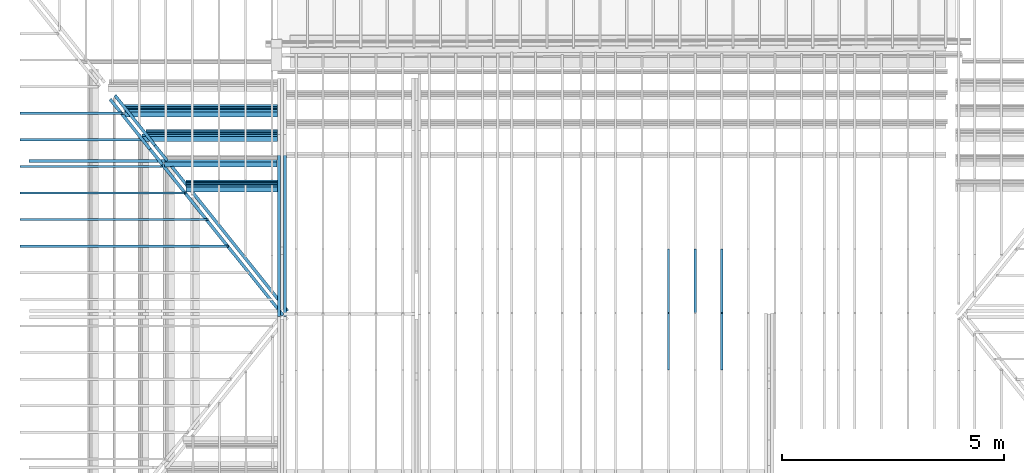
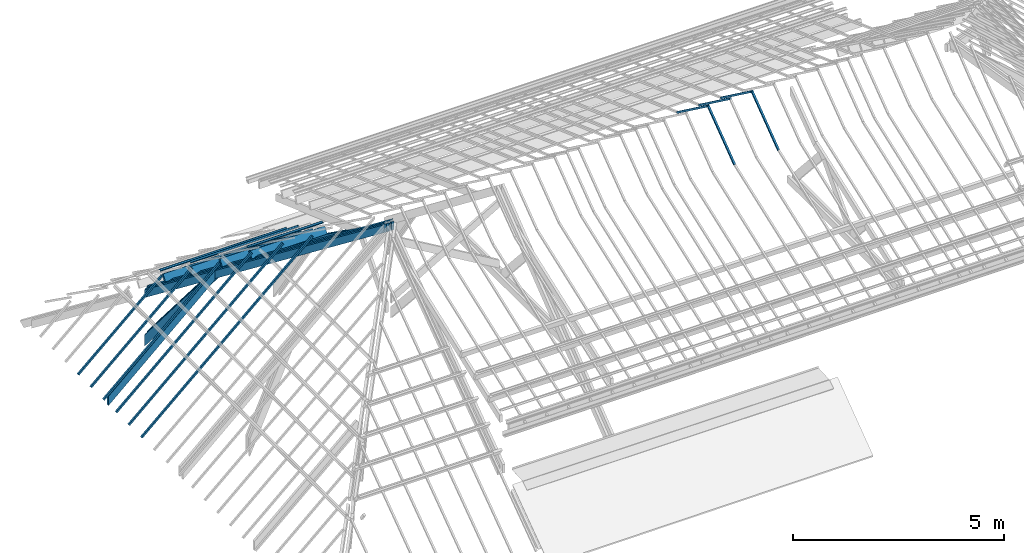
# One storey, part 6 of 18: 25 beams.
"""IFC2X3 building model written with IfcOpenShell, lengths in centimetres."""

from ifc_helpers import new_model, entity, si_unit, converted_unit, direction, frame, frame_2d, origin, origin_2d_with_axis, place, context, subcontext, project, spatial, polyline, circle_curve, parameter, trimmed, segment, composite_curve, rectangle, outline, extrude, clip, halfspace, material, type_object, element, save


model = new_model("IFC2X3")

# Units and contexts
model_context = context("Model", 3, precision=0.001, world=frame((0.0, 0.0, 13090.0)), true_north=direction((6.123233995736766e-17, 1.0)))
body_context = subcontext(model_context, "Body", "Model", "MODEL_VIEW")
ifc_project = project(units=[si_unit("LENGTHUNIT", "METRE", prefix="CENTI"), si_unit("AREAUNIT", "SQUARE_METRE"), si_unit("VOLUMEUNIT", "CUBIC_METRE"), converted_unit("PLANEANGLEUNIT", "DEGREE", entity("IfcPlaneAngleMeasure", 0.017453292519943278), si_unit("PLANEANGLEUNIT", "RADIAN"), dimensions=[0, 0, 0, 0, 0, 0, 0])], contexts=[model_context])

# Site, building, storey
site_placement = place(None, origin())
site = spatial("IfcSite", under=ifc_project, at=site_placement, Name="Default", CompositionType="ELEMENT")
building_placement = place(site_placement, origin())
building = spatial("IfcBuilding", under=site, at=building_placement, Name="e 39 logements et 22 maisons relais", CompositionType="ELEMENT")
storey_placement = place(building_placement, frame((0.0, 0.0, 610.0)))
storey = spatial("IfcBuildingStorey", under=building, at=storey_placement, Name="R+2", CompositionType="ELEMENT", Elevation=609.9999999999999)

# Beams
ifc_material_1 = material(Name="Bois - Bois de construction de dimensions courantes")
beam_type_1 = type_object("IfcBeamType", Name="Poutre - Bois de construction de dimensions courantes:70 200", PredefinedType="BEAM")
beam_1_placement = place(storey_placement, frame((-905.5294746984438, 463.2836581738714, -27.8660303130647), z_axis=(0.0, 0.581100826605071, 0.8138315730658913), x_axis=(0.0, -0.8138315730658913, 0.581100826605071)))
element("IfcBeam", 1, at=beam_1_placement, inside=storey, type_object=beam_type_1, material=ifc_material_1, Name="Poutre - Bois de construction de dimensions courantes:70 200", ObjectType="Poutre - Bois de construction de dimensions courantes:70 200", context=body_context, shape_type="Clipping", body=[
    clip(clip(extrude(rectangle(XDim=20.000000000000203, YDim=7.000000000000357, at=frame_2d((-5.3290705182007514e-14, 5.417888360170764e-14), x_axis=(1.0, 0.0))), frame((-114.89979409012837, 0.0, -72.0), z_axis=(1.0, 0.0, 0.0), x_axis=(0.0, 0.0, -1.0)), (0.0, 0.0, 1.0), 674.112694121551), halfspace(frame((585.5654339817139, -707.1819152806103, -29.048633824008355), z_axis=(0.7809677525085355, 0.0, -0.6245713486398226), x_axis=(0.0, 1.0, 0.0)), False)), halfspace(frame((-156.5033234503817, -707.1819152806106, -140.26573323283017), z_axis=(-0.8138315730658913, 0.0, 0.581100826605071), x_axis=(0.0, 1.0, 0.0)), False)),
])
beam_2_placement = place(storey_placement, frame((-570.9302602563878, 436.5245154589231, -59.66327943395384), z_axis=(0.0, 0.0, 1.0), x_axis=(-1.0, 0.0, 0.0)))
element("IfcBeam", 2, at=beam_2_placement, inside=storey, type_object=beam_type_1, material=ifc_material_1, Name="Poutre - Bois de construction de dimensions courantes:70 200", ObjectType="Poutre - Bois de construction de dimensions courantes:70 200", context=body_context, shape_type="SweptSolid", body=[
    extrude(rectangle(XDim=19.999999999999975, YDim=7.00000000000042, at=frame_2d((2.842170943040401e-14, -5.284661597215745e-14), x_axis=(1.0, 0.0))), frame((352.0992144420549, 5.735764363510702, -8.191520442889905), z_axis=(1.0, 0.0, 0.0), x_axis=(0.0, -0.5735764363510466, 0.8191520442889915)), (0.0, 0.0, 1.0), 344.47510569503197),
])
beam_3_placement = place(storey_placement, frame((-570.930260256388, 380.5076342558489, -19.73212954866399), z_axis=(0.0, 0.0, 1.0), x_axis=(-1.0, 0.0, 0.0)))
element("IfcBeam", 3, at=beam_3_placement, inside=storey, type_object=beam_type_1, material=ifc_material_1, Name="Poutre - Bois de construction de dimensions courantes:70 200", ObjectType="Poutre - Bois de construction de dimensions courantes:70 200", context=body_context, shape_type="SweptSolid", body=[
    extrude(rectangle(XDim=19.999999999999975, YDim=7.000000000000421, at=frame_2d((2.930988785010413e-14, -5.306866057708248e-14), x_axis=(1.0, 0.0))), frame((352.09921444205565, 5.735764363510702, -8.191520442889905), z_axis=(1.0, 0.0, 0.0), x_axis=(0.0, -0.5735764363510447, 0.8191520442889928)), (0.0, 0.0, 1.0), 305.08253445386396),
])
beam_4_placement = place(storey_placement, frame((-571.5398602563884, 323.50256693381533, 20.903440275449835), z_axis=(0.0, 0.0, 1.0), x_axis=(-1.0, 0.0, 0.0)))
element("IfcBeam", 4, at=beam_4_placement, inside=storey, type_object=beam_type_1, material=ifc_material_1, Name="Poutre - Bois de construction de dimensions courantes:70 200", ObjectType="Poutre - Bois de construction de dimensions courantes:70 200", context=body_context, shape_type="SweptSolid", body=[
    extrude(rectangle(XDim=19.99999999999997, YDim=7.000000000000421, at=frame_2d((6.039613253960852e-14, -8.659739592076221e-15), x_axis=(1.0, 0.0))), frame((352.0992144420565, 5.735764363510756, -8.191520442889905), z_axis=(1.0, 0.0, 0.0), x_axis=(0.0, -0.5735764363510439, 0.8191520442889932)), (0.0, 0.0, 1.0), 253.62741609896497),
])
beam_5_placement = place(storey_placement, frame((-570.9302602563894, 266.83133698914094, 61.30103700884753), z_axis=(0.0, 0.0, 1.0), x_axis=(-1.0, 0.0, 0.0)))
element("IfcBeam", 5, at=beam_5_placement, inside=storey, type_object=beam_type_1, material=ifc_material_1, Name="Poutre - Bois de construction de dimensions courantes:70 200", ObjectType="Poutre - Bois de construction de dimensions courantes:70 200", context=body_context, shape_type="SweptSolid", body=[
    extrude(rectangle(XDim=19.999999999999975, YDim=7.000000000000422, at=frame_2d((2.842170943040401e-14, -5.3512749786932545e-14), x_axis=(1.0, 0.0))), frame((352.09921444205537, 5.735764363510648, -8.191520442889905), z_axis=(1.0, 0.0, 0.0), x_axis=(0.0, -0.5735764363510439, 0.8191520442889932)), (0.0, 0.0, 1.0), 205.9371866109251),
])
beam_6_placement = place(storey_placement, frame((-919.5294746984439, 462.7115268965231, -25.0), z_axis=(0.0, 0.5811008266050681, 0.8138315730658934), x_axis=(0.0, -0.8138315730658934, 0.5811008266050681)))
element("IfcBeam", 6, at=beam_6_placement, inside=storey, type_object=beam_type_1, material=ifc_material_1, Name="Poutre - Bois de construction de dimensions courantes:70 200", ObjectType="Poutre - Bois de construction de dimensions courantes:70 200", context=body_context, shape_type="Clipping", body=[
    clip(clip(extrude(rectangle(XDim=19.999999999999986, YDim=7.000000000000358, at=frame_2d((4.440892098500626e-14, 5.395683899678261e-14), x_axis=(1.0, 0.0))), frame((-117.03086517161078, 0.0, -74.0), z_axis=(1.0, 0.0, 0.0), x_axis=(0.0, 0.0, -1.0)), (0.0, 0.0, 1.0), 675.2389835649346), halfspace(frame((584.5606523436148, -706.1819152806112, -31.048633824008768), z_axis=(0.7809677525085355, 0.0, -0.6245713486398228), x_axis=(0.0, 1.0, 0.0)), False)), halfspace(frame((-157.93326976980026, -706.1819152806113, -141.28380816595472), z_axis=(-0.8138315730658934, 0.0, 0.5811008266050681), x_axis=(0.0, 1.0, 0.0)), False)),
])
beam_7_placement = place(storey_placement, frame((-1229.27291643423, 395.47469559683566, 41.26438352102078), z_axis=(-0.30661229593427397, 0.3831192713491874, 0.8713257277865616), x_axis=(0.5444394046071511, -0.6802898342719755, 0.49070508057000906)))
element("IfcBeam", 7, at=beam_7_placement, inside=storey, type_object=beam_type_1, material=ifc_material_1, Name="Poutre - Bois de construction de dimensions courantes:70 200", ObjectType="Poutre - Bois de construction de dimensions courantes:70 200", context=body_context, shape_type="Clipping", body=[
    clip(clip(extrude(rectangle(XDim=20.0000000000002, YDim=7.000000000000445, at=frame_2d((2.1316282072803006e-14, -1.354472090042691e-13), x_axis=(1.0, 0.0))), frame((-168.0327282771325, 0.0, -92.0), z_axis=(1.0, 0.0, 0.0), x_axis=(0.0, 0.0, -1.0)), (0.0, 0.0, 1.0), 726.4458880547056), halfspace(frame((585.5654339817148, -748.6307979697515, -48.048633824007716), z_axis=(0.7809677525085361, 0.0, -0.6245713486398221), x_axis=(0.0, 1.0, 0.0)), False)), halfspace(frame((-126.49491129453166, 748.6307979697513, -27.48955892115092), z_axis=(-0.8734440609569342, 0.0, 0.4869245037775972), x_axis=(0.0, -1.0, 0.0)), False)),
])
beam_8_placement = place(storey_placement, frame((-1281.9583393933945, 461.3063700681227, -86.81401463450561), z_axis=(0.9252385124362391, 0.19438072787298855, -0.32580642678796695), x_axis=(0.3793859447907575, -0.4740516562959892, 0.7945699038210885)))
element("IfcBeam", 8, at=beam_8_placement, inside=storey, type_object=beam_type_1, material=ifc_material_1, Name="Poutre - Bois de construction de dimensions courantes:70 200", ObjectType="Poutre - Bois de construction de dimensions courantes:70 200", context=body_context, shape_type="Clipping", body=[
    clip(clip(extrude(rectangle(XDim=20.000000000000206, YDim=7.000000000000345, at=frame_2d((0.0, 0.0), x_axis=(0.0, 1.0))), frame((-150.8415061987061, 77.63321452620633, 49.36683099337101), z_axis=(1.0, 0.0, 0.0), x_axis=(0.0, -0.5365959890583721, 0.8438392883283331)), (0.0, 0.0, 1.0), 307.9335501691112), halfspace(frame((-79.39791125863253, -230.41775749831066, 447.3915401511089), z_axis=(-0.6071726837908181, -0.6704893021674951, -0.426363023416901), x_axis=(0.0, 0.5365959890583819, -0.8438392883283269)), False)), halfspace(frame((68.89715524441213, 323.05617424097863, -388.4829262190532), z_axis=(0.39438647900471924, -0.7754416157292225, -0.4931020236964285), x_axis=(0.0, -0.536595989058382, 0.8438392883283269)), False)),
])
beam_9_placement = place(storey_placement, frame((-1239.7620324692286, 386.1753665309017, 41.66223729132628), z_axis=(-0.30661229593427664, 0.383119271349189, 0.8713257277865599), x_axis=(0.5444394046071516, -0.680289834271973, 0.49070508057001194)))
element("IfcBeam", 9, at=beam_9_placement, inside=storey, type_object=beam_type_1, material=ifc_material_1, Name="Poutre - Bois de construction de dimensions courantes:70 200", ObjectType="Poutre - Bois de construction de dimensions courantes:70 200", context=body_context, shape_type="Clipping", body=[
    clip(clip(extrude(rectangle(XDim=20.000000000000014, YDim=7.000000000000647, at=frame_2d((1.1457501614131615e-13, -3.397282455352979e-14), x_axis=(1.0, 0.0))), frame((-168.84350808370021, 0.0, -92.0), z_axis=(1.0, 0.0, 0.0), x_axis=(0.0, 0.0, -1.0)), (0.0, 0.0, 1.0), 728.1325496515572), halfspace(frame((586.4413157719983, -749.5307979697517, -48.04863382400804), z_axis=(0.7809677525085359, 0.0, -0.6245713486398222), x_axis=(0.0, 1.0, 0.0)), False)), halfspace(frame((-127.11917719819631, 749.530797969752, -27.1549907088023), z_axis=(-0.8734440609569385, 0.0, 0.48692450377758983), x_axis=(0.0, -1.0, 0.0)), False)),
])
beam_10_placement = place(storey_placement, frame((-1295.5124585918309, 455.8368345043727, -92.30873544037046), z_axis=(0.9252385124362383, 0.19438072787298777, -0.3258064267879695), x_axis=(0.37938594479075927, -0.47405165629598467, 0.7945699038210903)))
element("IfcBeam", 10, at=beam_10_placement, inside=storey, type_object=beam_type_1, material=ifc_material_1, Name="Poutre - Bois de construction de dimensions courantes:70 200", ObjectType="Poutre - Bois de construction de dimensions courantes:70 200", context=body_context, shape_type="Clipping", body=[
    clip(clip(extrude(rectangle(XDim=20.000000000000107, YDim=6.999999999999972, at=frame_2d((5.0182080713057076e-14, 8.526512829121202e-14), x_axis=(0.0, 1.0))), frame((-146.96962917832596, 77.6332145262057, 49.366830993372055), z_axis=(1.0, 0.0, 0.0), x_axis=(0.0, -0.53659598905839, 0.8438392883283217)), (0.0, 0.0, 1.0), 310.97701285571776), halfspace(frame((-76.83597434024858, -228.0767502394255, 448.88018274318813), z_axis=(-0.6071726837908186, -0.6704893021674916, -0.4263630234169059), x_axis=(0.0, 0.5365959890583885, -0.8438392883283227)), False)), halfspace(frame((73.5846626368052, 322.2493575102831, -388.99597962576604), z_axis=(0.3943864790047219, -0.7754416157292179, -0.49310202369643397), x_axis=(0.0, -0.5365959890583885, 0.8438392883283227)), False)),
])
beam_11_placement = place(storey_placement, frame((-1378.9840533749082, 323.0076677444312, -63.82767713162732), z_axis=(-0.6686368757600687, 0.0, 0.7435890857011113), x_axis=(0.7435890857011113, 0.0, 0.6686368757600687)))
element("IfcBeam", 11, at=beam_11_placement, inside=storey, type_object=beam_type_1, material=ifc_material_1, Name="Poutre - Bois de construction de dimensions courantes:70 200", ObjectType="Poutre - Bois de construction de dimensions courantes:70 200", context=body_context, shape_type="Clipping", body=[
    clip(extrude(rectangle(XDim=20.000000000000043, YDim=7.000000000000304, at=frame_2d((0.0, 2.708944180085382e-14), x_axis=(1.0, 0.0))), frame((-231.65183513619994, 0.0, -92.0), z_axis=(1.0, 0.0, 0.0), x_axis=(0.0, 0.0, -1.0)), (0.0, 0.0, 1.0), 412.3008254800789), halfspace(frame((-186.06070489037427, 585.5520112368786, -51.29823932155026), z_axis=(-0.7435890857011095, 0.0, 0.6686368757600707), x_axis=(0.0, -1.0, 0.0)), False)),
])
ifc_material_2 = material(Name="neuf")
beam_type_2 = type_object("IfcBeamType", Name="panne z:panne z", PredefinedType="BEAM")
beam_12_placement = place(storey_placement, frame((-570.9302602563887, 445.96512300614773, -50.81808618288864), z_axis=(0.0, 0.0, 1.0), x_axis=(-1.0, 0.0, 0.0)))
element("IfcBeam", 12, at=beam_12_placement, inside=storey, type_object=beam_type_2, material=ifc_material_2, Name="panne z:panne z", ObjectType="panne z:panne z", context=body_context, shape_type="SweptSolid", body=[
    extrude(outline(composite_curve([segment(trimmed(circle_curve(frame_2d((-0.3000000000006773, 2.5999999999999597), x_axis=(1.0, 0.0)), 0.3999999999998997), [parameter(0.0)], [parameter(90.00000000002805)], True, "PARAMETER"), True, "CONTINUOUS"), segment(polyline([(-0.30000000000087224, 3.0), (-4.600000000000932, 3.0)]), True, "CONTINUOUS"), segment(trimmed(circle_curve(frame_2d((-4.60000000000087, 2.599999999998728), x_axis=(0.0, 1.0)), 0.39999999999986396), [parameter(0.0)], [parameter(90.00000000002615)], True, "PARAMETER"), True, "CONTINUOUS"), segment(polyline([(-5.0, 2.5999999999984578), (-5.0, 1.0)]), True, "CONTINUOUS"), segment(polyline([(-5.0, 1.0), (-4.800000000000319, 1.0)]), True, "CONTINUOUS"), segment(polyline([(-4.800000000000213, 1.0), (-4.800000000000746, 2.599999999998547)]), True, "CONTINUOUS"), segment(trimmed(circle_curve(frame_2d((-4.600000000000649, 2.5999999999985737), x_axis=(-1.0, 0.0)), 0.20000000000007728), [parameter(270.00000000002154)], [parameter(0.0)], True, "PARAMETER"), False, "CONTINUOUS"), segment(polyline([(-4.600000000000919, 2.7999999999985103), (-0.3000000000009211, 2.799999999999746)]), True, "CONTINUOUS"), segment(trimmed(circle_curve(frame_2d((-0.30000000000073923, 2.599999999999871), x_axis=(0.0, 1.0)), 0.2000000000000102), [parameter(270.00000000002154)], [parameter(0.0)], True, "PARAMETER"), False, "CONTINUOUS"), segment(polyline([(-0.10000000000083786, 2.599999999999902), (-0.09999999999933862, -2.6000000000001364)]), True, "CONTINUOUS"), segment(trimmed(circle_curve(frame_2d((0.3000000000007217, -2.59999999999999), x_axis=(-1.0, 0.0)), 0.3999999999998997), [parameter(0.0)], [parameter(90.00000000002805)], True, "PARAMETER"), True, "CONTINUOUS"), segment(polyline([(0.30000000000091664, -3.0), (4.600000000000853, -3.0)]), True, "CONTINUOUS"), segment(trimmed(circle_curve(frame_2d((4.600000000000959, -2.5999999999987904), x_axis=(0.0, -1.0)), 0.39999999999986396), [parameter(0.0)], [parameter(90.00000000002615)], True, "PARAMETER"), True, "CONTINUOUS"), segment(polyline([(5.0, -2.5999999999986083), (5.0, -1.0)]), True, "CONTINUOUS"), segment(polyline([(5.0, -1.0), (4.8000000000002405, -1.0)]), True, "CONTINUOUS"), segment(polyline([(4.800000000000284, -1.0), (4.8000000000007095, -2.5999999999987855)]), True, "CONTINUOUS"), segment(trimmed(circle_curve(frame_2d((4.600000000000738, -2.599999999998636), x_axis=(1.0, 0.0)), 0.20000000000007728), [parameter(270.00000000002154)], [parameter(0.0)], True, "PARAMETER"), False, "CONTINUOUS"), segment(polyline([(4.600000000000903, -2.7999999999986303), (0.30000000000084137, -2.7999999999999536)]), True, "CONTINUOUS"), segment(trimmed(circle_curve(frame_2d((0.30000000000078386, -2.599999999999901), x_axis=(0.0, -1.0)), 0.2000000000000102), [parameter(270.00000000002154)], [parameter(0.0)], True, "PARAMETER"), False, "CONTINUOUS"), segment(polyline([(0.10000000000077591, -2.59999999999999), (0.0999999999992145, 2.5999999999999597)]), True, "CONTINUOUS")], self_intersect=False)), frame((352.0992144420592, 1.5385808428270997, -2.1973211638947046), z_axis=(1.0, 0.0, 0.0), x_axis=(0.0, 0.8191520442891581, 0.5735764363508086)), (0.0, 0.0, 1.0), 347.0444629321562),
])
beam_13_placement = place(storey_placement, frame((-570.9302602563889, 389.86191951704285, -10.825402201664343), z_axis=(0.0, 0.0, 1.0), x_axis=(-1.0, 0.0, 0.0)))
element("IfcBeam", 13, at=beam_13_placement, inside=storey, type_object=beam_type_2, material=ifc_material_2, Name="panne z:panne z", ObjectType="panne z:panne z", context=body_context, shape_type="SweptSolid", body=[
    extrude(outline(composite_curve([segment(trimmed(circle_curve(frame_2d((-0.3000000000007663, 2.600000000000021), x_axis=(1.0, 0.0)), 0.3999999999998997), [parameter(0.0)], [parameter(90.00000000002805)], True, "PARAMETER"), True, "CONTINUOUS"), segment(polyline([(-0.3000000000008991, 3.0), (-4.600000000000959, 3.0)]), True, "CONTINUOUS"), segment(trimmed(circle_curve(frame_2d((-4.600000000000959, 2.5999999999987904), x_axis=(0.0, 1.0)), 0.39999999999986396), [parameter(0.0)], [parameter(90.00000000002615)], True, "PARAMETER"), True, "CONTINUOUS"), segment(polyline([(-5.0, 2.59999999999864), (-5.0, 1.0)]), True, "CONTINUOUS"), segment(polyline([(-5.0, 1.0), (-4.800000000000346, 1.0)]), True, "CONTINUOUS"), segment(polyline([(-4.8000000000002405, 1.0), (-4.800000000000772, 2.5999999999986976)]), True, "CONTINUOUS"), segment(trimmed(circle_curve(frame_2d((-4.600000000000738, 2.599999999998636), x_axis=(-1.0, 0.0)), 0.20000000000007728), [parameter(270.00000000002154)], [parameter(0.0)], True, "PARAMETER"), False, "CONTINUOUS"), segment(polyline([(-4.600000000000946, 2.799999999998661), (-0.3000000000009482, 2.7999999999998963)]), True, "CONTINUOUS"), segment(trimmed(circle_curve(frame_2d((-0.30000000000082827, 2.5999999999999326), x_axis=(0.0, 1.0)), 0.2000000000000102), [parameter(270.00000000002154)], [parameter(0.0)], True, "PARAMETER"), False, "CONTINUOUS"), segment(polyline([(-0.10000000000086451, 2.600000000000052), (-0.09999999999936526, -2.5999999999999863)]), True, "CONTINUOUS"), segment(trimmed(circle_curve(frame_2d((0.3000000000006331, -2.5999999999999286), x_axis=(-1.0, 0.0)), 0.3999999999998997), [parameter(0.0)], [parameter(90.00000000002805)], True, "PARAMETER"), True, "CONTINUOUS"), segment(polyline([(0.3000000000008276, -3.0), (4.600000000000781, -3.0)]), True, "CONTINUOUS"), segment(trimmed(circle_curve(frame_2d((4.60000000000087, -2.5999999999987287), x_axis=(0.0, -1.0)), 0.39999999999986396), [parameter(0.0)], [parameter(90.00000000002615)], True, "PARAMETER"), True, "CONTINUOUS"), segment(polyline([(5.0, -2.5999999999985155), (5.0, -1.0)]), True, "CONTINUOUS"), segment(polyline([(5.0, -1.0), (4.800000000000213, -1.0)]), True, "CONTINUOUS"), segment(polyline([(4.800000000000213, -1.0), (4.800000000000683, -2.599999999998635)]), True, "CONTINUOUS"), segment(trimmed(circle_curve(frame_2d((4.600000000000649, -2.599999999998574), x_axis=(1.0, 0.0)), 0.20000000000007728), [parameter(270.00000000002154)], [parameter(0.0)], True, "PARAMETER"), False, "CONTINUOUS"), segment(polyline([(4.600000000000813, -2.7999999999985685), (0.3000000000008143, -2.7999999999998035)]), True, "CONTINUOUS"), segment(trimmed(circle_curve(frame_2d((0.30000000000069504, -2.5999999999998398), x_axis=(0.0, -1.0)), 0.2000000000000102), [parameter(270.00000000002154)], [parameter(0.0)], True, "PARAMETER"), False, "CONTINUOUS"), segment(polyline([(0.10000000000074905, -2.5999999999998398), (0.09999999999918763, 2.60000000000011)]), True, "CONTINUOUS")], self_intersect=False)), frame((352.09921444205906, 1.538580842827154, -2.1973211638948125), z_axis=(1.0, 0.0, 0.0), x_axis=(0.0, 0.8191520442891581, 0.5735764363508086)), (0.0, 0.0, 1.0), 296.5666837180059),
])
beam_14_placement = place(storey_placement, frame((-570.9302602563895, 275.7841737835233, 70.49393342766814), z_axis=(0.0, 0.0, 1.0), x_axis=(-1.0, 0.0, 0.0)))
element("IfcBeam", 14, at=beam_14_placement, inside=storey, type_object=beam_type_2, material=ifc_material_2, Name="panne z:panne z", ObjectType="panne z:panne z", context=body_context, shape_type="SweptSolid", body=[
    extrude(outline(composite_curve([segment(trimmed(circle_curve(frame_2d((-0.3000000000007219, 2.59999999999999), x_axis=(1.0, 0.0)), 0.3999999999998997), [parameter(0.0)], [parameter(90.00000000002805)], True, "PARAMETER"), True, "CONTINUOUS"), segment(polyline([(-0.30000000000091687, 3.0), (-4.6000000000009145, 3.0)]), True, "CONTINUOUS"), segment(trimmed(circle_curve(frame_2d((-4.6000000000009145, 2.5999999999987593), x_axis=(0.0, 1.0)), 0.39999999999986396), [parameter(0.0)], [parameter(90.00000000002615)], True, "PARAMETER"), True, "CONTINUOUS"), segment(polyline([(-5.0, 2.5999999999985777), (-5.0, 1.0)]), True, "CONTINUOUS"), segment(polyline([(-5.0, 1.0), (-4.800000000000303, 1.0)]), True, "CONTINUOUS"), segment(polyline([(-4.800000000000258, 1.0), (-4.800000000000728, 2.5999999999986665)]), True, "CONTINUOUS"), segment(trimmed(circle_curve(frame_2d((-4.600000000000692, 2.599999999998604), x_axis=(-1.0, 0.0)), 0.20000000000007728), [parameter(270.00000000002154)], [parameter(0.0)], True, "PARAMETER"), False, "CONTINUOUS"), segment(polyline([(-4.600000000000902, 2.79999999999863), (-0.30000000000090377, 2.7999999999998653)]), True, "CONTINUOUS"), segment(trimmed(circle_curve(frame_2d((-0.30000000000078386, 2.5999999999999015), x_axis=(0.0, 1.0)), 0.2000000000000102), [parameter(270.00000000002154)], [parameter(0.0)], True, "PARAMETER"), False, "CONTINUOUS"), segment(polyline([(-0.10000000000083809, 2.5999999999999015), (-0.09999999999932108, -2.6000000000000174)]), True, "CONTINUOUS"), segment(trimmed(circle_curve(frame_2d((0.30000000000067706, -2.5999999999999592), x_axis=(-1.0, 0.0)), 0.3999999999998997), [parameter(0.0)], [parameter(90.00000000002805)], True, "PARAMETER"), True, "CONTINUOUS"), segment(polyline([(0.3000000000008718, -3.0), (4.60000000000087, -3.0)]), True, "CONTINUOUS"), segment(trimmed(circle_curve(frame_2d((4.600000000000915, -2.5999999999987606), x_axis=(0.0, -1.0)), 0.39999999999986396), [parameter(0.0)], [parameter(90.00000000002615)], True, "PARAMETER"), True, "CONTINUOUS"), segment(polyline([(5.0, -2.5999999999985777), (5.0, -1.0)]), True, "CONTINUOUS"), segment(polyline([(5.0, -1.0), (4.8000000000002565, -1.0)]), True, "CONTINUOUS"), segment(polyline([(4.800000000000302, -1.0), (4.800000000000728, -2.5999999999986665)]), True, "CONTINUOUS"), segment(trimmed(circle_curve(frame_2d((4.600000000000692, -2.5999999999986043), x_axis=(1.0, 0.0)), 0.20000000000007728), [parameter(270.00000000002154)], [parameter(0.0)], True, "PARAMETER"), False, "CONTINUOUS"), segment(polyline([(4.600000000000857, -2.799999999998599), (0.3000000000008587, -2.7999999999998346)]), True, "CONTINUOUS"), segment(trimmed(circle_curve(frame_2d((0.300000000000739, -2.5999999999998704), x_axis=(0.0, -1.0)), 0.2000000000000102), [parameter(270.00000000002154)], [parameter(0.0)], True, "PARAMETER"), False, "CONTINUOUS"), segment(polyline([(0.10000000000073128, -2.5999999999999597), (0.09999999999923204, 2.6000000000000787)]), True, "CONTINUOUS")], self_intersect=False)), frame((352.0992144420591, 1.538580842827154, -2.1973211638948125), z_axis=(1.0, 0.0, 0.0), x_axis=(0.0, 0.8191520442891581, 0.5735764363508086)), (0.0, 0.0, 1.0), 205.65175482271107),
])
beam_type_3 = type_object("IfcBeamType", Name="Poutre - Bois de construction de dimensions courantes:50 50", PredefinedType="BEAM")
beam_15_placement = place(storey_placement, frame((79.82376656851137, 465.83221651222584, -4.125801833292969), z_axis=(0.0, 0.5923999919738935, 0.8056439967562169), x_axis=(0.0, -0.8056439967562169, 0.5923999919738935)))
element("IfcBeam", 15, at=beam_15_placement, inside=storey, type_object=beam_type_3, material=ifc_material_1, Name="Poutre - Bois de construction de dimensions courantes:50 50", ObjectType="Poutre - Bois de construction de dimensions courantes:50 50", context=body_context, shape_type="SweptSolid", body=[
    extrude(rectangle(XDim=4.99999999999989, YDim=5.000000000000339, at=frame_2d((7.993605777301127e-15, -6.8833827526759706e-15), x_axis=(1.0, 0.0))), frame((378.2668122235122, 0.0, -64.50000000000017), z_axis=(1.0, 0.0, 0.0), x_axis=(0.0, 0.0, -1.0)), (0.0, 0.0, 1.0), 183.04182029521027),
])
beam_16_placement = place(storey_placement, frame((79.82376656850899, -508.3059562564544, -9.594498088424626), z_axis=(0.0, -0.6008803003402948, 0.7993390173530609), x_axis=(0.0, 0.7993390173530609, 0.6008803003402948)))
element("IfcBeam", 16, at=beam_16_placement, inside=storey, type_object=beam_type_3, material=ifc_material_1, Name="Poutre - Bois de construction de dimensions courantes:50 50", ObjectType="Poutre - Bois de construction de dimensions courantes:50 50", context=body_context, shape_type="SweptSolid", body=[
    extrude(rectangle(XDim=4.99999999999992, YDim=5.000000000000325, at=frame_2d((0.0, -1.354472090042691e-14), x_axis=(1.0, 0.0))), frame((402.31284712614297, 0.0, -64.50000000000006), z_axis=(1.0, 0.0, 0.0), x_axis=(0.0, 0.0, -1.0)), (0.0, 0.0, 1.0), 159.4441778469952),
])
beam_17_placement = place(storey_placement, frame((19.82376656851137, 465.83221651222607, -4.125801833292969), z_axis=(0.0, 0.5923999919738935, 0.8056439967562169), x_axis=(0.0, -0.8056439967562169, 0.5923999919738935)))
element("IfcBeam", 17, at=beam_17_placement, inside=storey, type_object=beam_type_3, material=ifc_material_1, Name="Poutre - Bois de construction de dimensions courantes:50 50", ObjectType="Poutre - Bois de construction de dimensions courantes:50 50", context=body_context, shape_type="SweptSolid", body=[
    extrude(rectangle(XDim=4.99999999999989, YDim=5.000000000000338, at=frame_2d((7.993605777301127e-15, -1.5543122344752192e-15), x_axis=(1.0, 0.0))), frame((378.26681222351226, 0.0, -64.50000000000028), z_axis=(1.0, 0.0, 0.0), x_axis=(0.0, 0.0, -1.0)), (0.0, 0.0, 1.0), 183.04182029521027),
])
beam_18_placement = place(storey_placement, frame((-40.17623343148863, 465.8322165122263, -4.125801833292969), z_axis=(0.0, 0.5923999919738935, 0.8056439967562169), x_axis=(0.0, -0.8056439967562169, 0.5923999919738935)))
element("IfcBeam", 18, at=beam_18_placement, inside=storey, type_object=beam_type_3, material=ifc_material_1, Name="Poutre - Bois de construction de dimensions courantes:50 50", ObjectType="Poutre - Bois de construction de dimensions courantes:50 50", context=body_context, shape_type="SweptSolid", body=[
    extrude(rectangle(XDim=4.99999999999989, YDim=5.000000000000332, at=frame_2d((7.993605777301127e-15, -3.552713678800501e-15), x_axis=(1.0, 0.0))), frame((378.26681222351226, 0.0, -64.50000000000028), z_axis=(1.0, 0.0, 0.0), x_axis=(0.0, 0.0, -1.0)), (0.0, 0.0, 1.0), 183.04182029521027),
])
beam_19_placement = place(storey_placement, frame((-40.17623343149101, -508.305956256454, -9.594498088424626), z_axis=(0.0, -0.6008803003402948, 0.7993390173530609), x_axis=(0.0, 0.7993390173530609, 0.6008803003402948)))
element("IfcBeam", 19, at=beam_19_placement, inside=storey, type_object=beam_type_3, material=ifc_material_1, Name="Poutre - Bois de construction de dimensions courantes:50 50", ObjectType="Poutre - Bois de construction de dimensions courantes:50 50", context=body_context, shape_type="SweptSolid", body=[
    extrude(rectangle(XDim=4.99999999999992, YDim=5.000000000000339, at=origin_2d_with_axis()), frame((402.312847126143, 0.0, -64.50000000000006), z_axis=(1.0, 0.0, 0.0), x_axis=(0.0, 0.0, -1.0)), (0.0, 0.0, 1.0), 159.4441778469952),
])
beam_20_placement = place(storey_placement, frame((-1389.908594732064, 130.40209682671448, -50.6248321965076), z_axis=(-0.6673418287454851, 0.0, 0.7447515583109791), x_axis=(0.7447515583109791, 0.0, 0.6673418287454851)))
element("IfcBeam", 20, at=beam_20_placement, inside=storey, type_object=beam_type_3, material=ifc_material_1, Name="Poutre - Bois de construction de dimensions courantes:50 50", ObjectType="Poutre - Bois de construction de dimensions courantes:50 50", context=body_context, shape_type="SweptSolid", body=[
    extrude(rectangle(XDim=5.000000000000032, YDim=5.000000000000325, at=frame_2d((6.039613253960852e-14, 0.0), x_axis=(1.0, 0.0))), frame((-226.3536755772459, 0.0, -84.50000000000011), z_axis=(1.0, 0.0, 0.0), x_axis=(0.0, 0.0, -1.0)), (0.0, 0.0, 1.0), 627.9188300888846),
])
beam_21_placement = place(storey_placement, frame((-1389.908594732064, 190.40209682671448, -50.6248321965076), z_axis=(-0.6673418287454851, 0.0, 0.7447515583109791), x_axis=(0.7447515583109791, 0.0, 0.6673418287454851)))
element("IfcBeam", 21, at=beam_21_placement, inside=storey, type_object=beam_type_3, material=ifc_material_1, Name="Poutre - Bois de construction de dimensions courantes:50 50", ObjectType="Poutre - Bois de construction de dimensions courantes:50 50", context=body_context, shape_type="SweptSolid", body=[
    extrude(rectangle(XDim=4.999999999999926, YDim=5.000000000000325, at=frame_2d((0.0, -2.708944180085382e-14), x_axis=(1.0, 0.0))), frame((-226.35367557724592, 0.0, -84.50000000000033), z_axis=(1.0, 0.0, 0.0), x_axis=(0.0, 0.0, -1.0)), (0.0, 0.0, 1.0), 566.02879819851),
])
beam_22_placement = place(storey_placement, frame((-1389.908594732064, 250.40209682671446, -50.6248321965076), z_axis=(-0.6673418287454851, 0.0, 0.7447515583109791), x_axis=(0.7447515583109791, 0.0, 0.6673418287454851)))
element("IfcBeam", 22, at=beam_22_placement, inside=storey, type_object=beam_type_3, material=ifc_material_1, Name="Poutre - Bois de construction de dimensions courantes:50 50", ObjectType="Poutre - Bois de construction de dimensions courantes:50 50", context=body_context, shape_type="SweptSolid", body=[
    extrude(rectangle(XDim=4.999999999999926, YDim=5.000000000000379, at=frame_2d((0.0, -5.417888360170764e-14), x_axis=(1.0, 0.0))), frame((-226.35367557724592, 0.0, -84.50000000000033), z_axis=(1.0, 0.0, 0.0), x_axis=(0.0, 0.0, -1.0)), (0.0, 0.0, 1.0), 498.0910909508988),
])
beam_23_placement = place(storey_placement, frame((-1389.908594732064, 310.4020968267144, -50.6248321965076), z_axis=(-0.6673418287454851, 0.0, 0.7447515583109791), x_axis=(0.7447515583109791, 0.0, 0.6673418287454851)))
element("IfcBeam", 23, at=beam_23_placement, inside=storey, type_object=beam_type_3, material=ifc_material_1, Name="Poutre - Bois de construction de dimensions courantes:50 50", ObjectType="Poutre - Bois de construction de dimensions courantes:50 50", context=body_context, shape_type="SweptSolid", body=[
    extrude(rectangle(XDim=4.999999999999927, YDim=5.000000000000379, at=frame_2d((-4.0190073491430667e-14, 0.0), x_axis=(1.0, 0.0))), frame((-226.35367557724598, 0.0, -84.50000000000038), z_axis=(1.0, 0.0, 0.0), x_axis=(0.0, 0.0, -1.0)), (0.0, 0.0, 1.0), 427.0126570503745),
])
beam_24_placement = place(storey_placement, frame((-1389.908594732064, 370.40209682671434, -50.6248321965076), z_axis=(-0.6673418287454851, 0.0, 0.7447515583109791), x_axis=(0.7447515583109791, 0.0, 0.6673418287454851)))
element("IfcBeam", 24, at=beam_24_placement, inside=storey, type_object=beam_type_3, material=ifc_material_1, Name="Poutre - Bois de construction de dimensions courantes:50 50", ObjectType="Poutre - Bois de construction de dimensions courantes:50 50", context=body_context, shape_type="SweptSolid", body=[
    extrude(rectangle(XDim=4.999999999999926, YDim=5.000000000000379, at=origin_2d_with_axis()), frame((-226.35367557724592, 0.0, -84.50000000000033), z_axis=(1.0, 0.0, 0.0), x_axis=(0.0, 0.0, -1.0)), (0.0, 0.0, 1.0), 371.3711994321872),
])
beam_25_placement = place(storey_placement, frame((-1389.908594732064, 430.4020968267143, -50.6248321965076), z_axis=(-0.6673418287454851, 0.0, 0.7447515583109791), x_axis=(0.7447515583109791, 0.0, 0.6673418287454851)))
element("IfcBeam", 25, at=beam_25_placement, inside=storey, type_object=beam_type_3, material=ifc_material_1, Name="Poutre - Bois de construction de dimensions courantes:50 50", ObjectType="Poutre - Bois de construction de dimensions courantes:50 50", context=body_context, shape_type="SweptSolid", body=[
    extrude(rectangle(XDim=4.999999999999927, YDim=5.000000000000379, at=origin_2d_with_axis()), frame((-226.35367557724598, 0.0, -84.50000000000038), z_axis=(1.0, 0.0, 0.0), x_axis=(0.0, 0.0, -1.0)), (0.0, 0.0, 1.0), 308.5752762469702),
])

save(model, "model.ifc")
